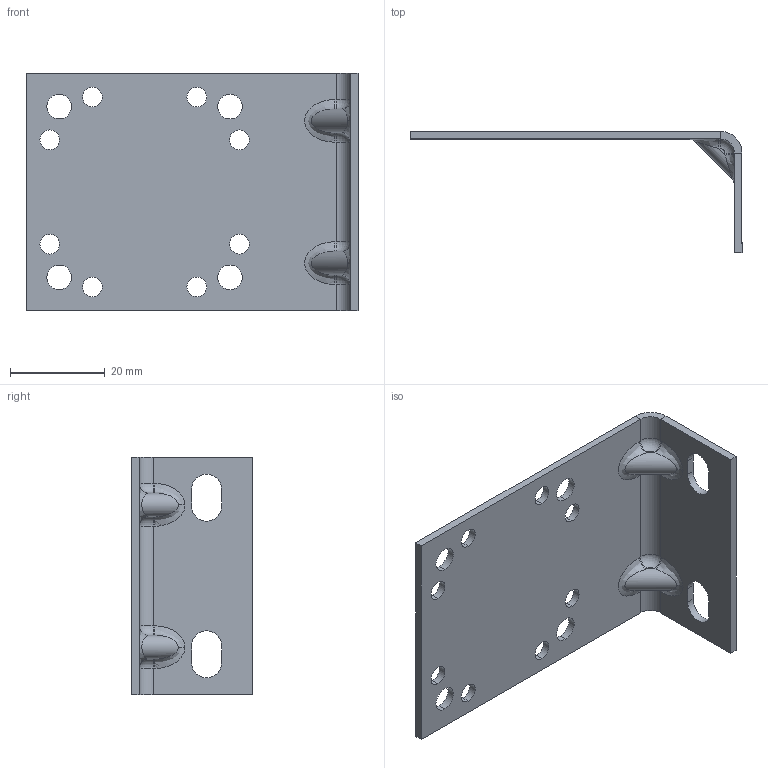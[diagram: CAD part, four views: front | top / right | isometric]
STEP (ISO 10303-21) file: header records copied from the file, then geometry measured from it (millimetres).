
FILE_DESCRIPTION (( 'STEP AP214' ), '1' );
FILE_NAME ('Soporte-2.STEP', '2021-02-12T14:53:30', ( '' ), ( '' ), 'SwSTEP 2.0', 'SolidWorks 2021', '' );
FILE_SCHEMA (( 'AUTOMOTIVE_DESIGN' ));
Length unit declared in the file: millimetre
Products named in the file (1): Soporte-2
Bounding box: 70 x 25.5 x 50 mm (x, y, z)
Volume: 7050.7 mm3; surface area: 9550.6 mm2
Topology: 1 solids, 1 shells, 98 faces, 248 edges, 152 vertices
Faces by surface type: cylinder 54, plane 24, bspline 12, torus 8
Entity records: 4508 total; most frequent: CARTESIAN_POINT 1015, DIRECTION 510, ORIENTED_EDGE 496, EDGE_CURVE 248, AXIS2_PLACEMENT_3D 199, VERTEX_POINT 152, EDGE_LOOP 126, VECTOR 112
